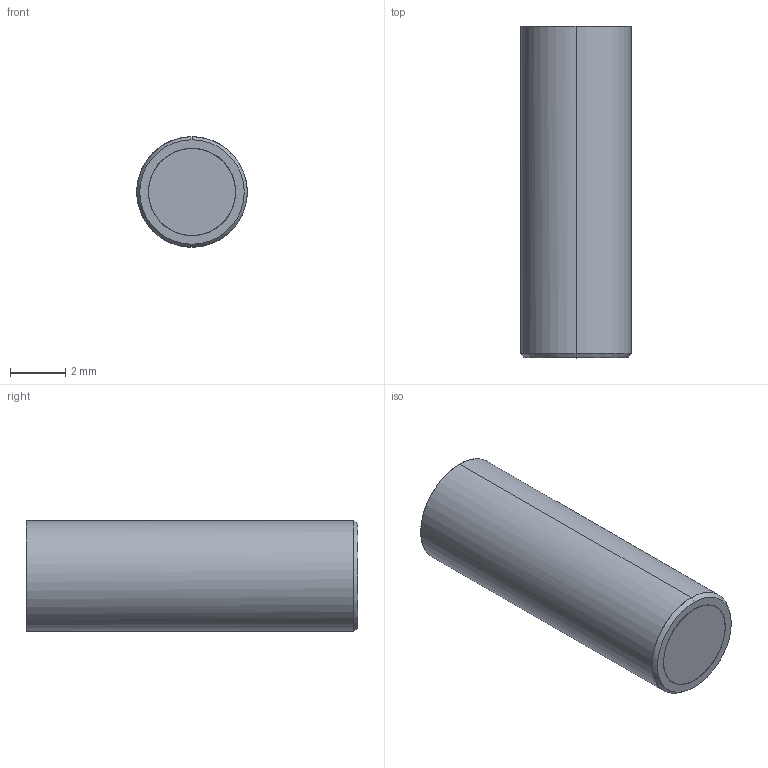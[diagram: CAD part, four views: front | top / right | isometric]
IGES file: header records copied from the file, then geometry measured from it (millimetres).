
Start section: START RECORD GO HERE.
Global section: file name: fa042200.igs; native system: DASSAULT SYSTEMES CATIA V5 R20 - www.3ds.com; preprocessor: CATIA Version 5 Release 20 ; author: Utente; organization: NB04-ASUS; date: 20201108.084050; units: millimetre
Bounding box: 4 x 12 x 4 mm (x, y, z)
Surface area: 501.5 mm2 (no closed solid volume)
Topology: 0 solids, 0 shells, 294 faces, 1186 edges, 1184 vertices
Faces by surface type: bspline 216, revolution 50, plane 28
